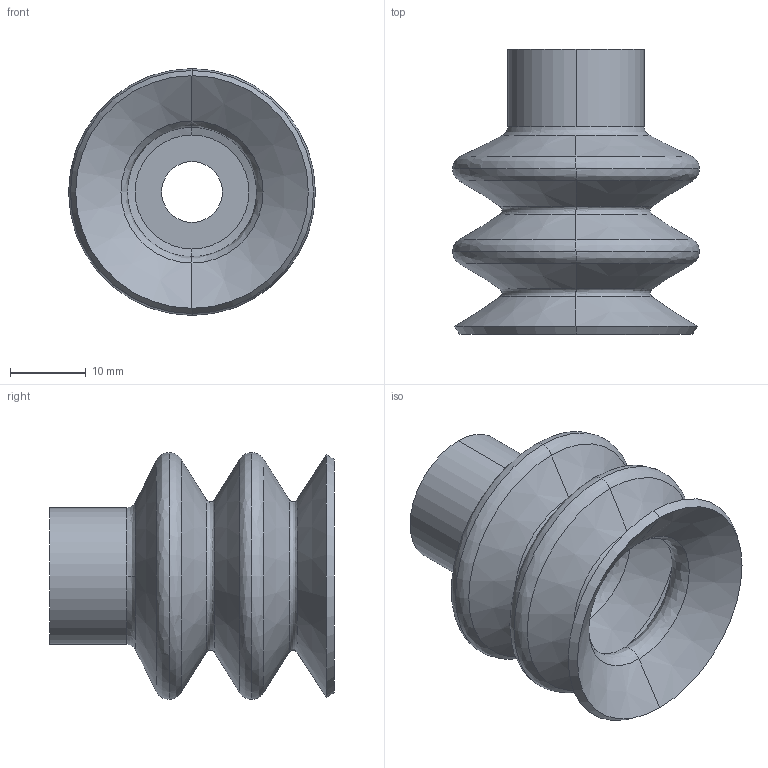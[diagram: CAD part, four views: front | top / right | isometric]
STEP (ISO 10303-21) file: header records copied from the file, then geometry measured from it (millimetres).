
FILE_DESCRIPTION (( 'STEP AP214' ), '1' );
FILE_NAME ('VS3-S32.STEP', '2019-11-13T08:49:02', ( '微软用户' ), ( '微软中国' ), 'SwSTEP 2.0', 'SolidWorks 2016', '' );
FILE_SCHEMA (( 'AUTOMOTIVE_DESIGN' ));
Length unit declared in the file: millimetre
Products named in the file (1): VS3-S32
Bounding box: 32.5 x 37.5 x 32.5 mm (x, y, z)
Volume: 7047.1 mm3; surface area: 8094.9 mm2
Topology: 1 solids, 1 shells, 54 faces, 116 edges, 64 vertices
Faces by surface type: bspline 26, cone 22, cylinder 4, plane 2
Entity records: 1768 total; most frequent: CARTESIAN_POINT 703, ORIENTED_EDGE 232, DIRECTION 212, EDGE_CURVE 116, AXIS2_PLACEMENT_3D 93, VERTEX_POINT 64, CIRCLE 64, EDGE_LOOP 56
